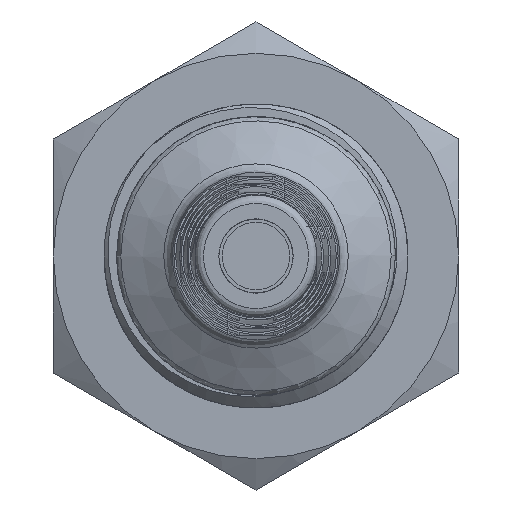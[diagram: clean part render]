
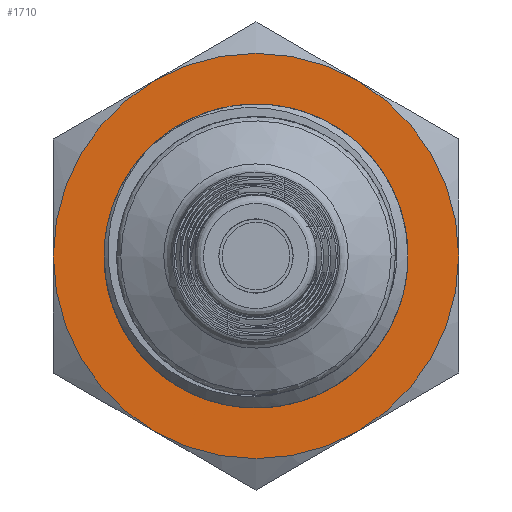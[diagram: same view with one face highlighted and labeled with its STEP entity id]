
A CAD part, front view. The second image highlights one B-rep face of the part: STEP entity #1710.
In plain terms, the highlighted planar face has unit normal (0, -1, 0).
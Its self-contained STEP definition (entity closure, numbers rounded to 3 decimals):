
#1134=B_SPLINE_CURVE_WITH_KNOTS('',3,(#18369,#18370,#18371,#18372),.UNSPECIFIED.,
.F.,.F.,(4,4),(0.,1.),.UNSPECIFIED.);
#1135=B_SPLINE_CURVE_WITH_KNOTS('',3,(#18375,#18376,#18377,#18378,#18379,
#18380,#18381,#18382,#18383,#18384),.UNSPECIFIED.,.F.,.F.,(4,2,2,2,4),(0.,
0.25,0.5,0.75,1.),.UNSPECIFIED.);
#1136=B_SPLINE_CURVE_WITH_KNOTS('',3,(#18386,#18387,#18388,#18389),.UNSPECIFIED.,
.F.,.F.,(4,4),(0.,1.),.UNSPECIFIED.);
#1137=B_SPLINE_CURVE_WITH_KNOTS('',3,(#18391,#18392,#18393,#18394,#18395,
#18396,#18397,#18398,#18399,#18400),.UNSPECIFIED.,.F.,.F.,(4,2,2,2,4),(0.,
0.25,0.5,0.75,1.),.UNSPECIFIED.);
#1392=FACE_BOUND('',#2615,.T.);
#1710=ADVANCED_FACE('',(#2200,#1392),#1895,.F.);
#1895=PLANE('',#6791);
#2200=FACE_OUTER_BOUND('',#2614,.T.);
#2614=EDGE_LOOP('',(#4552,#4553,#4554,#4555,#4556,#4557));
#2615=EDGE_LOOP('',(#4558,#4559,#4560,#4561));
#4552=ORIENTED_EDGE('',*,*,#6363,.T.);
#4553=ORIENTED_EDGE('',*,*,#6364,.T.);
#4554=ORIENTED_EDGE('',*,*,#6365,.T.);
#4555=ORIENTED_EDGE('',*,*,#6366,.T.);
#4556=ORIENTED_EDGE('',*,*,#6367,.T.);
#4557=ORIENTED_EDGE('',*,*,#6368,.T.);
#4558=ORIENTED_EDGE('',*,*,#6369,.F.);
#4559=ORIENTED_EDGE('',*,*,#6370,.T.);
#4560=ORIENTED_EDGE('',*,*,#6371,.T.);
#4561=ORIENTED_EDGE('',*,*,#6372,.T.);
#5366=VERTEX_POINT('',#18358);
#5367=VERTEX_POINT('',#18359);
#5368=VERTEX_POINT('',#18361);
#5369=VERTEX_POINT('',#18363);
#5370=VERTEX_POINT('',#18365);
#5371=VERTEX_POINT('',#18367);
#5372=VERTEX_POINT('',#18373);
#5373=VERTEX_POINT('',#18374);
#5374=VERTEX_POINT('',#18385);
#5375=VERTEX_POINT('',#18390);
#6363=EDGE_CURVE('',#5366,#5367,#6450,.T.);
#6364=EDGE_CURVE('',#5367,#5368,#6451,.T.);
#6365=EDGE_CURVE('',#5368,#5369,#6452,.T.);
#6366=EDGE_CURVE('',#5369,#5370,#6453,.T.);
#6367=EDGE_CURVE('',#5370,#5371,#6454,.T.);
#6368=EDGE_CURVE('',#5371,#5366,#6455,.T.);
#6369=EDGE_CURVE('',#5372,#5373,#1134,.T.);
#6370=EDGE_CURVE('',#5372,#5374,#1135,.T.);
#6371=EDGE_CURVE('',#5374,#5375,#1136,.T.);
#6372=EDGE_CURVE('',#5375,#5373,#1137,.T.);
#6450=CIRCLE('',#6785,12.);
#6451=CIRCLE('',#6786,12.);
#6452=CIRCLE('',#6787,12.);
#6453=CIRCLE('',#6788,12.);
#6454=CIRCLE('',#6789,12.);
#6455=CIRCLE('',#6790,12.);
#6785=AXIS2_PLACEMENT_3D('',#18357,#7493,#7494);
#6786=AXIS2_PLACEMENT_3D('',#18360,#7495,#7496);
#6787=AXIS2_PLACEMENT_3D('',#18362,#7497,#7498);
#6788=AXIS2_PLACEMENT_3D('',#18364,#7499,#7500);
#6789=AXIS2_PLACEMENT_3D('',#18366,#7501,#7502);
#6790=AXIS2_PLACEMENT_3D('',#18368,#7503,#7504);
#6791=AXIS2_PLACEMENT_3D('',#18401,#7505,#7506);
#7493=DIRECTION('',(0.,-1.,0.));
#7494=DIRECTION('',(0.5,0.,-0.866));
#7495=DIRECTION('',(0.,-1.,0.));
#7496=DIRECTION('',(1.,0.,0.));
#7497=DIRECTION('',(0.,-1.,0.));
#7498=DIRECTION('',(0.5,0.,0.866));
#7499=DIRECTION('',(0.,-1.,0.));
#7500=DIRECTION('',(-0.5,0.,0.866));
#7501=DIRECTION('',(0.,-1.,0.));
#7502=DIRECTION('',(-1.,0.,0.));
#7503=DIRECTION('',(0.,-1.,0.));
#7504=DIRECTION('',(-0.5,0.,-0.866));
#7505=DIRECTION('',(0.,1.,0.));
#7506=DIRECTION('',(-1.,0.,0.));
#18357=CARTESIAN_POINT('',(0.,63.9,-10.));
#18358=CARTESIAN_POINT('',(6.,63.9,-20.392));
#18359=CARTESIAN_POINT('',(12.,63.9,-10.));
#18360=CARTESIAN_POINT('',(0.,63.9,-10.));
#18361=CARTESIAN_POINT('',(6.,63.9,0.392));
#18362=CARTESIAN_POINT('',(0.,63.9,-10.));
#18363=CARTESIAN_POINT('',(-6.,63.9,0.392));
#18364=CARTESIAN_POINT('',(0.,63.9,-10.));
#18365=CARTESIAN_POINT('',(-12.,63.9,-10.));
#18366=CARTESIAN_POINT('',(0.,63.9,-10.));
#18367=CARTESIAN_POINT('',(-6.,63.9,-20.392));
#18368=CARTESIAN_POINT('',(0.,63.9,-10.));
#18369=CARTESIAN_POINT('',(3.061,63.9,-2.474));
#18370=CARTESIAN_POINT('',(3.059,63.9,-2.473));
#18371=CARTESIAN_POINT('',(3.056,63.9,-2.472));
#18372=CARTESIAN_POINT('',(3.054,63.9,-2.471));
#18373=CARTESIAN_POINT('',(3.061,63.9,-2.474));
#18374=CARTESIAN_POINT('',(3.054,63.9,-2.471));
#18375=CARTESIAN_POINT('',(3.061,63.9,-2.474));
#18376=CARTESIAN_POINT('',(5.179,63.9,-3.253));
#18377=CARTESIAN_POINT('',(6.918,63.9,-4.936));
#18378=CARTESIAN_POINT('',(8.664,63.9,-9.045));
#18379=CARTESIAN_POINT('',(8.67,63.9,-11.461));
#18380=CARTESIAN_POINT('',(6.948,63.9,-15.614));
#18381=CARTESIAN_POINT('',(5.248,63.9,-17.313));
#18382=CARTESIAN_POINT('',(1.123,63.9,-19.069));
#18383=CARTESIAN_POINT('',(-1.265,63.9,-19.124));
#18384=CARTESIAN_POINT('',(-3.382,63.9,-18.339));
#18385=CARTESIAN_POINT('',(-3.383,63.9,-18.34));
#18386=CARTESIAN_POINT('',(-3.382,63.9,-18.339));
#18387=CARTESIAN_POINT('',(-3.385,63.9,-18.339));
#18388=CARTESIAN_POINT('',(-3.387,63.9,-18.338));
#18389=CARTESIAN_POINT('',(-3.389,63.9,-18.337));
#18390=CARTESIAN_POINT('',(-3.389,63.9,-18.337));
#18391=CARTESIAN_POINT('',(-3.389,63.9,-18.337));
#18392=CARTESIAN_POINT('',(-5.451,63.9,-17.422));
#18393=CARTESIAN_POINT('',(-7.134,63.9,-15.709));
#18394=CARTESIAN_POINT('',(-8.855,63.9,-11.595));
#18395=CARTESIAN_POINT('',(-8.893,63.9,-9.178));
#18396=CARTESIAN_POINT('',(-7.244,63.9,-5.024));
#18397=CARTESIAN_POINT('',(-5.578,63.9,-3.289));
#18398=CARTESIAN_POINT('',(-1.41,63.9,-1.538));
#18399=CARTESIAN_POINT('',(0.989,63.9,-1.549));
#18400=CARTESIAN_POINT('',(3.054,63.9,-2.471));
#18401=CARTESIAN_POINT('',(0.,63.9,-10.));
